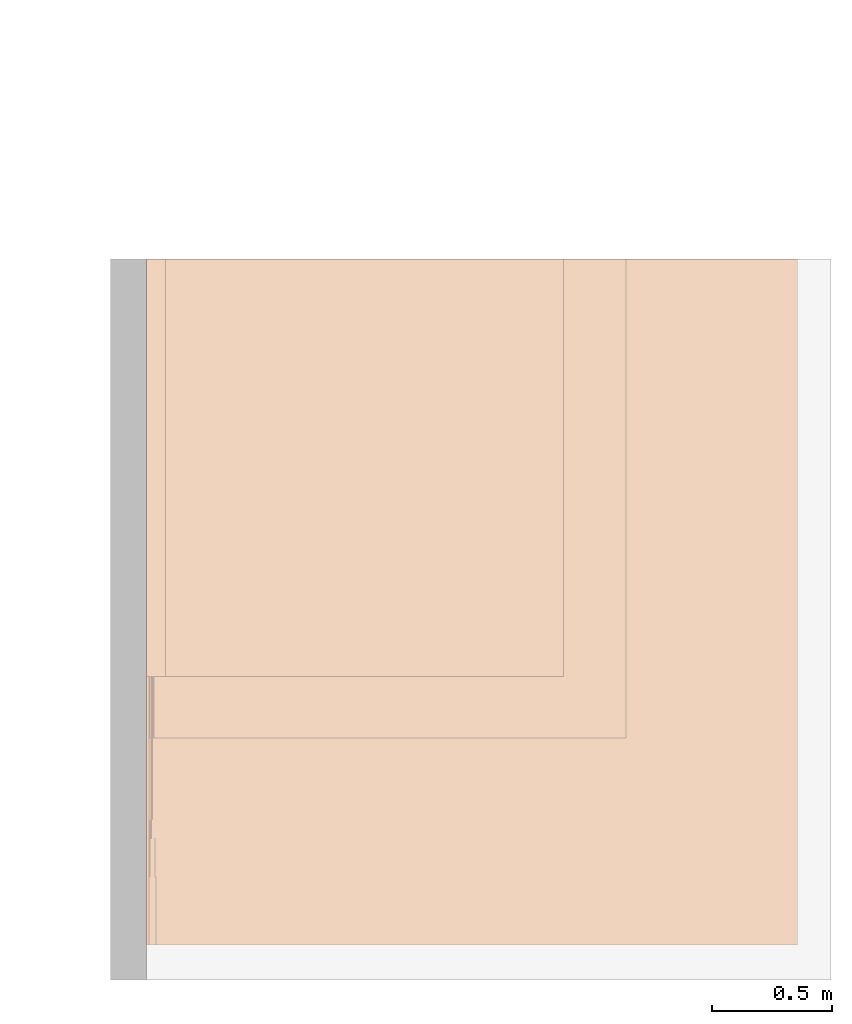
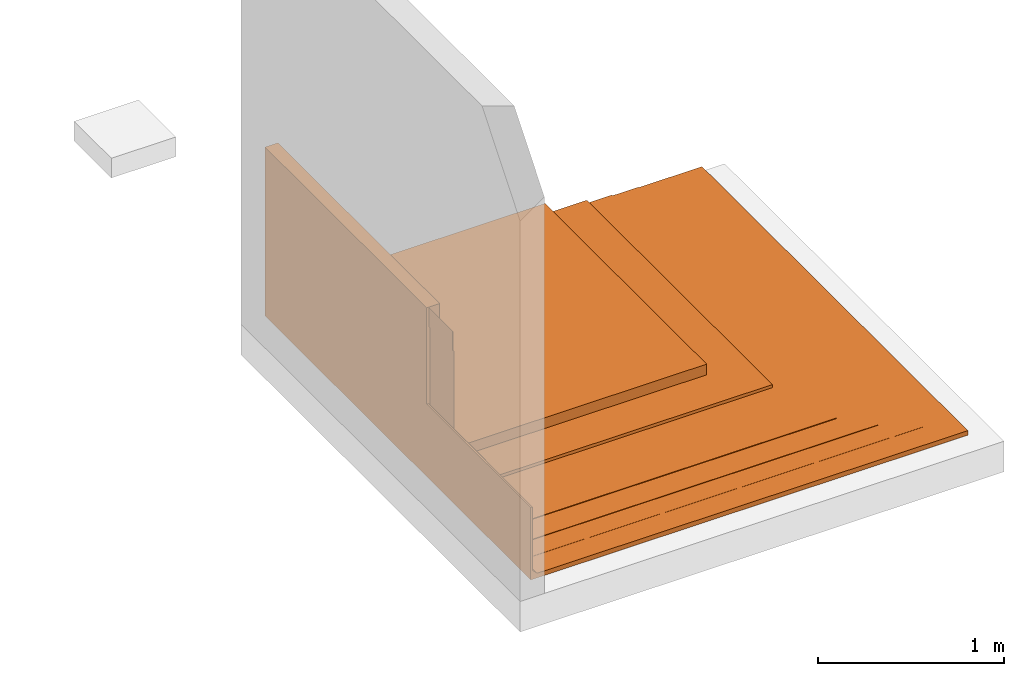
# One storey, part 2 of 2: 1 proxy.
"""IFC2X3 building model written with IfcOpenShell, lengths in metres."""

import ifcopenshell
import ifcopenshell.guid

model = None  # the IFC model being written
_history = None  # IfcOwnerHistory: only IFC2X3 demands one
_inside = {}  # id of a spatial element -> (the spatial element, [elements in it])
_under = {}  # id of a project, library or spatial element -> (it, [spatial elements below it])
_declared = {}  # id of a project -> (the project, [libraries it declares])
_typed = {}  # id of a type object -> (the type object, [elements of that type])
_made_of = {}  # id of a material, layer set ... -> (it, [elements and type objects made of it])


def new_model(schema):
    """Start an empty IFC model of exactly this schema.

    Asked for "IFC4X3", IfcOpenShell would pick the latest addendum, in which some entities
    have other attributes; the version numbers below select the first issue.
    IFC2X3 requires an IfcOwnerHistory on every rooted entity: one is made here for all.
    """
    global model, _history
    if schema == "IFC4X3":
        model = ifcopenshell.file(schema_version=(4, 3, 0, 0))
    else:
        model = ifcopenshell.file(schema=schema)
    _inside.clear()
    _under.clear()
    _declared.clear()
    _typed.clear()
    _made_of.clear()
    _history = None
    if model.schema == "IFC2X3":
        org = make("IfcOrganization", Name="unknown")
        user = make(
            "IfcPersonAndOrganization",
            ThePerson=make("IfcPerson", FamilyName="unknown"),
            TheOrganization=org,
        )
        app = make(
            "IfcApplication",
            ApplicationDeveloper=org,
            Version="unknown",
            ApplicationFullName="unknown",
            ApplicationIdentifier="unknown",
        )
        _history = make(
            "IfcOwnerHistory",
            OwningUser=user,
            OwningApplication=app,
            ChangeAction="ADDED",
            CreationDate=0,
        )
    return model


def make(cls, **values):
    """One entity of the class cls with the attributes given. An attribute that is None is left unset."""
    return model.create_entity(
        cls, **{name: value for name, value in values.items() if value is not None}
    )


def entity(cls, *values):
    """Any entity or typed value of the class cls, its attributes in the order of the schema. None: left unset."""
    e = model.create_entity(cls)
    for i, value in enumerate(values):
        if value is not None:
            e[i] = value
    return e


def rooted(cls, **values):
    """An entity with a GlobalId (a new one), such as an element, a storey or a relation."""
    return make(cls, GlobalId=ifcopenshell.guid.new(), OwnerHistory=_history, **values)


def si_unit(unit_type, name, prefix=None):
    """IfcSIUnit, for example si_unit("LENGTHUNIT", "METRE", prefix="MILLI")."""
    return make("IfcSIUnit", UnitType=unit_type, Prefix=prefix, Name=name)


def converted_unit(unit_type, name, factor, base, dimensions=None, offset=None):
    """IfcConversionBasedUnit, such as the inch: factor (a typed value) times the base unit."""
    return make(
        "IfcConversionBasedUnit"
        if offset is None
        else "IfcConversionBasedUnitWithOffset",
        ConversionOffset=offset,
        Dimensions=None
        if dimensions is None
        else entity("IfcDimensionalExponents", *dimensions),
        UnitType=unit_type,
        Name=name,
        ConversionFactor=make(
            "IfcMeasureWithUnit", ValueComponent=factor, UnitComponent=base
        ),
    )


def derived_unit(unit_type, elements):
    """IfcDerivedUnit: a product of units, each with its exponent."""
    return make(
        "IfcDerivedUnit",
        Elements=[
            make("IfcDerivedUnitElement", Unit=unit, Exponent=power)
            for unit, power in elements
        ],
        UnitType=unit_type,
    )


def assignment(units):
    """IfcUnitAssignment: the units of a project."""
    return None if units is None else make("IfcUnitAssignment", Units=units)


def point(xyz):
    """IfcCartesianPoint."""
    return None if xyz is None else make("IfcCartesianPoint", Coordinates=xyz)


def direction(xyz):
    """IfcDirection."""
    return None if xyz is None else make("IfcDirection", DirectionRatios=xyz)


def frame(location, z_axis=None, x_axis=None):
    """IfcAxis2Placement3D, a coordinate frame: its origin and axes. An axis left out is left unset."""
    return make(
        "IfcAxis2Placement3D",
        Location=point(location),
        Axis=direction(z_axis),
        RefDirection=direction(x_axis),
    )


def frame_2d(location, x_axis=None):
    """IfcAxis2Placement2D, a coordinate frame in the plane: its origin and x axis."""
    return make(
        "IfcAxis2Placement2D", Location=point(location), RefDirection=direction(x_axis)
    )


def origin():
    """The frame at (0, 0, 0) with its axes left unset."""
    return frame((0.0, 0.0, 0.0))


def origin_2d_with_axis():
    """The frame at (0, 0) in the plane with the x axis (1, 0) written out."""
    return frame_2d((0.0, 0.0), x_axis=(1.0, 0.0))


def place(relative_to, where):
    """IfcLocalPlacement: puts the frame where relative to a parent placement (None: the world)."""
    return make(
        "IfcLocalPlacement", PlacementRelTo=relative_to, RelativePlacement=where
    )


def context(
    kind, dimensions, precision=None, world=None, true_north=None, identifier=None
):
    """IfcGeometricRepresentationContext, for example the 3D "Model" context."""
    return make(
        "IfcGeometricRepresentationContext",
        ContextIdentifier=identifier,
        ContextType=kind,
        CoordinateSpaceDimension=dimensions,
        Precision=precision,
        WorldCoordinateSystem=world,
        TrueNorth=true_north,
    )


def subcontext(parent, identifier, kind, view, scale=None):
    """IfcGeometricRepresentationSubContext, for example "Body" below "Model"."""
    return make(
        "IfcGeometricRepresentationSubContext",
        ContextIdentifier=identifier,
        ContextType=kind,
        ParentContext=parent,
        TargetScale=scale,
        TargetView=view,
    )


def project(units=None, contexts=None):
    """IfcProject with its units and contexts."""
    return rooted(
        "IfcProject",
        Name="project",
        RepresentationContexts=contexts,
        UnitsInContext=assignment(units),
    )


def spatial(cls, under=None, at=None, **own):
    """A site, building, storey or space (cls), placed at a placement, below another one or the project."""
    s = rooted(cls, ObjectPlacement=at, **own)
    if under is not None:
        _under.setdefault(under.id(), (under, []))[1].append(s)
    return s


def polyline(points):
    """IfcPolyline through the points."""
    return make("IfcPolyline", Points=[point(p) for p in points])


def circle_curve(where, radius):
    """IfcCircle in the frame where."""
    return make("IfcCircle", Position=where, Radius=radius)


def parameter(value):
    """IfcParameterValue: where a trimmed curve begins or ends, as a parameter of its basis curve."""
    return model.create_entity("IfcParameterValue", value)


def trimmed(basis, trim1, trim2, sense, master):
    """IfcTrimmedCurve: the piece of a basis curve between two trims."""
    return make(
        "IfcTrimmedCurve",
        BasisCurve=basis,
        Trim1=trim1,
        Trim2=trim2,
        SenseAgreement=sense,
        MasterRepresentation=master,
    )


def segment(curve, same_sense, transition):
    """IfcCompositeCurveSegment."""
    return make(
        "IfcCompositeCurveSegment",
        Transition=transition,
        SameSense=same_sense,
        ParentCurve=curve,
    )


def composite_curve(segments, self_intersect=None):
    """IfcCompositeCurve: segments joined end to end."""
    return make("IfcCompositeCurve", Segments=segments, SelfIntersect=self_intersect)


def profile(cls, at=None, kind="AREA", **sizes):
    """A parametric profile (cls). Its sizes go by their IFC names, for example OverallWidth=200.0."""
    return make(cls, ProfileType=kind, Position=at, **sizes)


def rectangle(**sizes):
    """IfcRectangleProfileDef."""
    return profile("IfcRectangleProfileDef", **sizes)


def outline(outer, holes=None, kind="AREA"):
    """IfcArbitraryClosedProfileDef: a profile drawn as a closed curve; with holes, ...WithVoids."""
    if holes is None:
        return make("IfcArbitraryClosedProfileDef", ProfileType=kind, OuterCurve=outer)
    return make(
        "IfcArbitraryProfileDefWithVoids",
        ProfileType=kind,
        OuterCurve=outer,
        InnerCurves=holes,
    )


def extrude(swept, where, along, depth):
    """IfcExtrudedAreaSolid: the profile swept, set in the frame where, extruded along a direction by depth."""
    return make(
        "IfcExtrudedAreaSolid",
        SweptArea=swept,
        Position=where,
        ExtrudedDirection=direction(along),
        Depth=depth,
    )


def shape(context_of_items, identifier, shape_type, items):
    """IfcShapeRepresentation: the items that make up one representation, for example the "Body"."""
    return make(
        "IfcShapeRepresentation",
        ContextOfItems=context_of_items,
        RepresentationIdentifier=identifier,
        RepresentationType=shape_type,
        Items=items,
    )


def source(mapping_origin, context_of_items, identifier, shape_type, items):
    """IfcRepresentationMap: a shape defined once, which mapped items show again and again."""
    return make(
        "IfcRepresentationMap",
        MappingOrigin=mapping_origin,
        MappedRepresentation=shape(context_of_items, identifier, shape_type, items),
    )


def transform(
    local_origin,
    x_axis=None,
    y_axis=None,
    z_axis=None,
    scale=None,
    scale2=None,
    scale3=None,
    uniform=True,
):
    """IfcCartesianTransformationOperator3D, or its non-uniform kind. x_axis, y_axis, z_axis: its Axis1, 2, 3."""
    if uniform:
        return make(
            "IfcCartesianTransformationOperator3D",
            Axis1=direction(x_axis),
            Axis2=direction(y_axis),
            LocalOrigin=point(local_origin),
            Scale=scale,
            Axis3=direction(z_axis),
        )
    return make(
        "IfcCartesianTransformationOperator3DnonUniform",
        Axis1=direction(x_axis),
        Axis2=direction(y_axis),
        LocalOrigin=point(local_origin),
        Scale=scale,
        Axis3=direction(z_axis),
        Scale2=scale2,
        Scale3=scale3,
    )


def mapped(mapping_source, mapping_target):
    """IfcMappedItem: shows the shape of a source again, moved by a transform."""
    return make(
        "IfcMappedItem", MappingSource=mapping_source, MappingTarget=mapping_target
    )


def material(Name=None, Category=None):
    """IfcMaterial."""
    return make("IfcMaterial", Name=Name, Category=Category)


def material_list(materials):
    """IfcMaterialList."""
    return make("IfcMaterialList", Materials=materials)


def made_of(thing, what):
    """Note that an element or type object is made of a material, layer set ...; save() writes the relation."""
    if what is not None:
        _made_of.setdefault(what.id(), (what, []))[1].append(thing)
    return thing


def type_object(cls, material=None, **own):
    """A type object (cls), such as IfcWallType, which elements share."""
    return made_of(rooted(cls, **own), material)


def type_shapes(of_type, sources):
    """Give a type object the sources (RepresentationMaps) that its elements show as mapped items."""
    of_type.RepresentationMaps = sources


def element(
    cls,
    number,
    at=None,
    inside=None,
    cuts=None,
    type_object=None,
    material=None,
    context=None,
    identifier="Body",
    shape_type=None,
    held_by="IfcProductDefinitionShape",
    body=None,
    shapes=None,
    **own,
):
    """One element of the class cls, such as IfcWall. Its Tag is "e" and its number.

    at: its placement. inside: the storey or other place that contains it. cuts: it is an
    opening in that element (IfcRelVoidsElement). A single representation is given by context,
    identifier, shape_type and body (its items); several are given by shapes. held_by: the class
    of the entity that holds the representations. save() writes the other relations.
    """
    e = rooted(cls, Tag="e%d" % number, ObjectPlacement=at, **own)
    if body is not None:
        shapes = [shape(context, identifier, shape_type, body)]
    if shapes is not None:
        e.Representation = make(held_by, Representations=shapes)
    if inside is not None:
        _inside.setdefault(inside.id(), (inside, []))[1].append(e)
    if cuts is not None:
        rooted(
            "IfcRelVoidsElement", RelatingBuildingElement=cuts, RelatedOpeningElement=e
        )
    if type_object is not None:
        _typed.setdefault(type_object.id(), (type_object, []))[1].append(e)
    return made_of(e, material)


def aggregate(whole, parts):
    """IfcRelAggregates: a whole, such as a stair, and the parts it consists of."""
    return rooted("IfcRelAggregates", RelatingObject=whole, RelatedObjects=parts)


def save(model, path):
    """Write the relations noted so far, then the file.

    IfcRelAggregates (storeys below a building ...), IfcRelContainedInSpatialStructure (elements
    in a storey), IfcRelDefinesByType, IfcRelAssociatesMaterial and IfcRelDeclares: one each for
    every whole, place, type object, material and project.
    """
    for whole, parts in _under.values():
        aggregate(whole, parts)
    for where, things in _inside.values():
        rooted(
            "IfcRelContainedInSpatialStructure",
            RelatedElements=things,
            RelatingStructure=where,
        )
    for kind, things in _typed.values():
        rooted("IfcRelDefinesByType", RelatedObjects=things, RelatingType=kind)
    for what, things in _made_of.values():
        rooted("IfcRelAssociatesMaterial", RelatedObjects=things, RelatingMaterial=what)
    for by, libraries in _declared.values():
        rooted("IfcRelDeclares", RelatingContext=by, RelatedDefinitions=libraries)
    model.write(path)


model = new_model("IFC2X3")

# Units and contexts
model_context = context("Model", 3, precision=1e-05, world=origin(), true_north=direction((6.123031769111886e-17, 1.0)))
body_context = subcontext(model_context, "Body", "Model", "MODEL_VIEW")
ifc_project = project(units=[si_unit("LENGTHUNIT", "METRE"), si_unit("AREAUNIT", "SQUARE_METRE"), si_unit("VOLUMEUNIT", "CUBIC_METRE"), converted_unit("PLANEANGLEUNIT", "DEGREE", entity("IfcRatioMeasure", 0.017453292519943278), si_unit("PLANEANGLEUNIT", "RADIAN"), dimensions=[0, 0, 0, 0, 0, 0, 0]), si_unit("MASSUNIT", "GRAM", prefix="KILO"), derived_unit("MASSDENSITYUNIT", [(si_unit("MASSUNIT", "GRAM", prefix="KILO"), 1), (si_unit("LENGTHUNIT", "METRE"), -3)]), derived_unit("IONCONCENTRATIONUNIT", [(si_unit("MASSUNIT", "GRAM", prefix="KILO"), 1), (si_unit("LENGTHUNIT", "METRE"), -3)]), derived_unit("MOMENTOFINERTIAUNIT", [(si_unit("LENGTHUNIT", "METRE"), 4)]), si_unit("TIMEUNIT", "SECOND"), si_unit("FREQUENCYUNIT", "HERTZ"), si_unit("THERMODYNAMICTEMPERATUREUNIT", "DEGREE_CELSIUS"), derived_unit("THERMALTRANSMITTANCEUNIT", [(si_unit("MASSUNIT", "GRAM", prefix="KILO"), 1), (si_unit("THERMODYNAMICTEMPERATUREUNIT", "KELVIN"), -1), (si_unit("TIMEUNIT", "SECOND"), -3)]), derived_unit("THERMALCONDUCTANCEUNIT", [(si_unit("MASSUNIT", "GRAM", prefix="KILO"), 1), (si_unit("THERMODYNAMICTEMPERATUREUNIT", "KELVIN"), -1), (si_unit("TIMEUNIT", "SECOND"), -3), (si_unit("LENGTHUNIT", "METRE"), 1)]), derived_unit("VOLUMETRICFLOWRATEUNIT", [(si_unit("LENGTHUNIT", "METRE"), 3), (si_unit("TIMEUNIT", "SECOND"), -1)]), derived_unit("MASSFLOWRATEUNIT", [(si_unit("MASSUNIT", "GRAM", prefix="KILO"), 1), (si_unit("TIMEUNIT", "SECOND"), -1)]), derived_unit("ROTATIONALFREQUENCYUNIT", [(si_unit("TIMEUNIT", "SECOND"), -1)]), si_unit("ELECTRICCURRENTUNIT", "AMPERE"), si_unit("ELECTRICVOLTAGEUNIT", "VOLT"), si_unit("POWERUNIT", "WATT"), si_unit("FORCEUNIT", "NEWTON", prefix="KILO"), si_unit("ILLUMINANCEUNIT", "LUX"), si_unit("LUMINOUSFLUXUNIT", "LUMEN"), si_unit("LUMINOUSINTENSITYUNIT", "CANDELA"), derived_unit("USERDEFINED", [(si_unit("MASSUNIT", "GRAM", prefix="KILO"), -1), (si_unit("LENGTHUNIT", "METRE"), -2), (si_unit("TIMEUNIT", "SECOND"), 3), (si_unit("LUMINOUSFLUXUNIT", "LUMEN"), 1)]), derived_unit("USERDEFINED", [(si_unit("MASSUNIT", "GRAM", prefix="KILO"), 1), (si_unit("TIMEUNIT", "SECOND"), -3), (si_unit("LENGTHUNIT", "METRE"), 3), (si_unit("ELECTRICCURRENTUNIT", "AMPERE"), -2)]), derived_unit("SOUNDPOWERUNIT", [(si_unit("MASSUNIT", "GRAM", prefix="KILO"), 1), (si_unit("TIMEUNIT", "SECOND"), -3), (si_unit("LENGTHUNIT", "METRE"), 2)]), derived_unit("SOUNDPRESSUREUNIT", [(si_unit("MASSUNIT", "GRAM", prefix="KILO"), 1), (si_unit("LENGTHUNIT", "METRE"), -1), (si_unit("TIMEUNIT", "SECOND"), -2)]), derived_unit("LINEARVELOCITYUNIT", [(si_unit("LENGTHUNIT", "METRE"), 1), (si_unit("TIMEUNIT", "SECOND"), -1)]), si_unit("PRESSUREUNIT", "PASCAL"), derived_unit("USERDEFINED", [(si_unit("MASSUNIT", "GRAM", prefix="KILO"), 1), (si_unit("LENGTHUNIT", "METRE"), -2), (si_unit("TIMEUNIT", "SECOND"), -2)]), derived_unit("LINEARFORCEUNIT", [(si_unit("MASSUNIT", "GRAM", prefix="KILO"), 1), (si_unit("TIMEUNIT", "SECOND"), -2)]), derived_unit("PLANARFORCEUNIT", [(si_unit("MASSUNIT", "GRAM", prefix="KILO"), 1), (si_unit("LENGTHUNIT", "METRE"), -1), (si_unit("TIMEUNIT", "SECOND"), -2)]), derived_unit("SPECIFICHEATCAPACITYUNIT", [(si_unit("THERMODYNAMICTEMPERATUREUNIT", "KELVIN"), -1), (si_unit("LENGTHUNIT", "METRE"), 2), (si_unit("TIMEUNIT", "SECOND"), -2)]), derived_unit("HEATINGVALUEUNIT", [(si_unit("LENGTHUNIT", "METRE"), 2), (si_unit("TIMEUNIT", "SECOND"), -2)]), derived_unit("VAPORPERMEABILITYUNIT", [(si_unit("LENGTHUNIT", "METRE"), -1), (si_unit("TIMEUNIT", "SECOND"), 1)]), derived_unit("DYNAMICVISCOSITYUNIT", [(si_unit("MASSUNIT", "GRAM", prefix="KILO"), 1), (si_unit("TIMEUNIT", "SECOND"), -1), (si_unit("LENGTHUNIT", "METRE"), -1)]), derived_unit("THERMALEXPANSIONCOEFFICIENTUNIT", [(si_unit("THERMODYNAMICTEMPERATUREUNIT", "KELVIN"), -1)]), derived_unit("MODULUSOFELASTICITYUNIT", [(si_unit("MASSUNIT", "GRAM", prefix="KILO"), 1), (si_unit("LENGTHUNIT", "METRE"), -1), (si_unit("TIMEUNIT", "SECOND"), -2)]), derived_unit("ISOTHERMALMOISTURECAPACITYUNIT", [(si_unit("LENGTHUNIT", "METRE"), 3), (si_unit("MASSUNIT", "GRAM", prefix="KILO"), -1)]), derived_unit("MOISTUREDIFFUSIVITYUNIT", [(si_unit("TIMEUNIT", "SECOND"), -1), (si_unit("LENGTHUNIT", "METRE"), 2)])], contexts=[model_context])

# Site, building, storey
site_placement = place(None, origin())
site = spatial("IfcSite", under=ifc_project, at=site_placement, Name="Default", CompositionType="ELEMENT")
building_placement = place(site_placement, origin())
building = spatial("IfcBuilding", under=site, at=building_placement, CompositionType="ELEMENT")
storey_placement = place(building_placement, frame((0.0, 0.0, -0.0025237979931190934)))
storey = spatial("IfcBuildingStorey", under=building, at=storey_placement, Name="ARQ Térreo", CompositionType="ELEMENT", Elevation=-0.0025237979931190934)

# Proxy
ifc_material_1 = material(Name="#argamassa")
ifc_material_2 = material(Name="#selante")
ifc_material_3 = material(Name="#proteção mecânica")
ifc_material_4 = material(Name="#camada amortecedora")
ifc_material_5 = material(Name="#Viapoxi Adesivo")
ifc_material_6 = material(Name="#Tela Plástica")
ifc_material_7 = material(Name="# Torodin 4mm - TIPO III - Classe A")
ifc_material_8 = material(Name="#Primer Adeflex")
ifc_material_list = material_list([ifc_material_1, ifc_material_2, ifc_material_3, ifc_material_4, ifc_material_5, ifc_material_6, ifc_material_7, ifc_material_8])
building_element_proxy_type = type_object("IfcBuildingElementProxyType", Name="IMPER:IMPER", PredefinedType="NOTDEFINED", material=ifc_material_list)
shared_shape = source(origin(), body_context, "Body", "SweptSolid", [
    extrude(rectangle(XDim=2.854111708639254, YDim=0.010000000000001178, at=frame_2d((0.0, -3.382710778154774e-17), x_axis=(1.0, 0.0))), frame((-0.3469704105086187, -1.2811858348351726, -0.0025237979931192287), z_axis=(0.0, 0.0, 1.0), x_axis=(0.0, -1.0, 0.0)), (0.0, 0.0, 1.0), 0.4752746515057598),
    extrude(rectangle(XDim=1.7372680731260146, YDim=0.020000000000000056, at=origin_2d_with_axis()), frame((-0.2619704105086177, -0.7227640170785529, 0.10730187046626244), z_axis=(0.0, 0.0, 1.0), x_axis=(0.0, -1.0, 0.0)), (0.0, 0.0, 1.0), 0.019999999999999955),
    extrude(outline(composite_curve([segment(polyline([(0.21586995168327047, -1.5093352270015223), (0.28586995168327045, -1.5093352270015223)]), True, "CONTINUOUS"), segment(polyline([(0.28586995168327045, -1.5093352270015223), (0.2858699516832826, 0.2018647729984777)]), True, "CONTINUOUS"), segment(polyline([(0.2858699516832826, 0.2018647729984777), (0.18082209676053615, 0.2018647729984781)]), True, "CONTINUOUS"), segment(trimmed(circle_curve(frame_2d((0.18082209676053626, 0.21161777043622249), x_axis=(0.0, -1.0)), 0.009752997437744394), [parameter(300.520300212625)], [parameter(0.0)], True, "PARAMETER"), False, "CONTINUOUS"), segment(polyline([(0.1724203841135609, 0.20666477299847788), (0.04569562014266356, 0.20666477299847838)]), True, "CONTINUOUS"), segment(trimmed(circle_curve(frame_2d((0.04569562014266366, 0.21641777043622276), x_axis=(0.0, -1.0)), 0.009752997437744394), [parameter(300.5203002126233)], [parameter(0.0)], True, "PARAMETER"), False, "CONTINUOUS"), segment(polyline([(0.03729390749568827, 0.21146477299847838), (-0.1123558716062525, 0.21146477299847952)]), True, "CONTINUOUS"), segment(polyline([(-0.1123558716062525, 0.21146477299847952), (-0.11235587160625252, 0.2084365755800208)]), True, "CONTINUOUS"), segment(polyline([(-0.11235587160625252, 0.2084365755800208), (-0.12153952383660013, 0.20843657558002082)]), True, "CONTINUOUS"), segment(polyline([(-0.12153952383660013, 0.20843657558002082), (-0.12957903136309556, 0.21647608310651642)]), True, "CONTINUOUS"), segment(polyline([(-0.12957903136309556, 0.21647608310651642), (-0.1295790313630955, 0.22647608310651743)]), True, "CONTINUOUS"), segment(polyline([(-0.1295790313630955, 0.22647608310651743), (-0.760956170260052, 0.22647608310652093)]), True, "CONTINUOUS"), segment(polyline([(-0.760956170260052, 0.22647608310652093), (-0.7609561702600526, 0.1464760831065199)]), True, "CONTINUOUS"), segment(polyline([(-0.7609561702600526, 0.1464760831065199), (0.2158699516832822, 0.14647608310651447)]), True, "CONTINUOUS"), segment(polyline([(0.2158699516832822, 0.14647608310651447), (0.23586995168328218, 0.1464760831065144)]), True, "CONTINUOUS"), segment(polyline([(0.23586995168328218, 0.1464760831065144), (0.23586995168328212, 0.12647608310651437)]), True, "CONTINUOUS"), segment(polyline([(0.23586995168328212, 0.12647608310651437), (0.21586995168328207, 0.12647608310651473)]), True, "CONTINUOUS"), segment(polyline([(0.21586995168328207, 0.12647608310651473), (0.21586995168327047, -1.5093352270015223)]), True, "CONTINUOUS")], self_intersect=False)), frame((-0.12549432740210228, -1.5913980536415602, 0.34317182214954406), z_axis=(0.0, 1.0, 0.0), x_axis=(0.0, 0.0, -1.0)), (0.0, 0.0, 1.0), 1.7372680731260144),
    extrude(outline(composite_curve([segment(polyline([(-0.011733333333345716, -1.2609592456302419), (0.00826666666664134, -1.2609592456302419)]), True, "CONTINUOUS"), segment(polyline([(0.00826666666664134, -1.2609592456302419), (0.008266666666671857, 0.5588520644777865)]), True, "CONTINUOUS"), segment(polyline([(0.008266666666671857, 0.5588520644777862), (0.003466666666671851, 0.5588520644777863)]), True, "CONTINUOUS"), segment(polyline([(0.003466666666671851, 0.5588520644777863), (0.0034666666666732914, 0.6939632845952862)]), True, "CONTINUOUS"), segment(trimmed(circle_curve(frame_2d((-0.011907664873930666, 0.6948520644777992), x_axis=(0.0, -1.0)), 0.015399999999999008), [parameter(86.69145144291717)], [parameter(179.3513847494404)], True, "PARAMETER"), True, "CONTINUOUS"), segment(polyline([(-0.011733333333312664, 0.7102510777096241), (-0.011733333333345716, -1.2609592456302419)]), True, "CONTINUOUS")], self_intersect=False)), frame((0.38288165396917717, -1.8470207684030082, 0.04556853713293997), z_axis=(0.0, 1.0, 0.0), x_axis=(0.0, 0.0, -1.0)), (0.0, 0.0, 1.0), 1.9928907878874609),
    extrude(outline(polyline([(-0.0008824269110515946, 5.2421376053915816e-05), (0.006204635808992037, 5.24213760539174e-05), (0.009908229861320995, 0.003756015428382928), (-0.0014613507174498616, 0.0037560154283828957), (-0.007955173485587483, -0.002737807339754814), (-0.005813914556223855, -0.004879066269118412), (-0.0008824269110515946, 5.2421376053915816e-05)])), frame((-0.33762013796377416, -2.191126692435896, 0.4630887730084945), z_axis=(0.0, 1.0, 0.0), x_axis=(-0.7071067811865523, 0.0, 0.7071067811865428)), (0.0, 0.0, 1.0), 2.3369967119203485),
    extrude(outline(composite_curve([segment(polyline([(0.00721894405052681, -0.3428229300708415), (0.00721894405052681, -0.44828655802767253)]), True, "CONTINUOUS"), segment(polyline([(0.00721894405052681, -0.44828655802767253), (0.008018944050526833, -0.44828655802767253)]), True, "CONTINUOUS"), segment(polyline([(0.008018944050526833, -0.44828655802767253), (0.008018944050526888, -0.3428229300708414)]), True, "CONTINUOUS"), segment(trimmed(circle_curve(frame_2d((-0.007534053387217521, -0.3428229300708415), x_axis=(1.0, 0.0)), 0.015552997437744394), [parameter(3.5622212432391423e-13)], [parameter(46.2607256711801)], True, "PARAMETER"), True, "CONTINUOUS"), segment(polyline([(0.003218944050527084, -0.33158599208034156), (0.0032189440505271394, -0.20769645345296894)]), True, "CONTINUOUS"), segment(trimmed(circle_curve(frame_2d((-0.01233405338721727, -0.2076964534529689), x_axis=(1.0, 0.0)), 0.015552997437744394), [parameter(359.9999999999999)], [parameter(46.26072567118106)], True, "PARAMETER"), True, "CONTINUOUS"), segment(polyline([(-0.001581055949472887, -0.19645951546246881), (-0.0015810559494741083, 0.4635404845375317)]), True, "CONTINUOUS"), segment(trimmed(circle_curve(frame_2d((-0.01951188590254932, 0.45265933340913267), x_axis=(1.0, 0.0)), 0.02097412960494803), [parameter(31.251065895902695)], [parameter(56.89660713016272)], True, "PARAMETER"), True, "CONTINUOUS"), segment(polyline([(-0.008056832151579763, 0.4702290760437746), (-0.00805683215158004, 0.5937614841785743)]), True, "CONTINUOUS"), segment(polyline([(-0.00805683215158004, 0.5937614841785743), (-0.008856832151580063, 0.5937614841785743)]), True, "CONTINUOUS"), segment(polyline([(-0.008856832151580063, 0.5937614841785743), (-0.008856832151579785, 0.46979016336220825)]), True, "CONTINUOUS"), segment(trimmed(circle_curve(frame_2d((-0.01951188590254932, 0.45265933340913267), x_axis=(1.0, 0.0)), 0.02017412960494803), [parameter(31.880834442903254)], [parameter(58.11916555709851)], True, "PARAMETER"), False, "CONTINUOUS"), segment(polyline([(-0.0023810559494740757, 0.46331438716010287), (-0.0023810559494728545, -0.19680660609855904)]), True, "CONTINUOUS"), segment(trimmed(circle_curve(frame_2d((-0.01233405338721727, -0.2076964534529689), x_axis=(1.0, 0.0)), 0.014752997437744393), [parameter(359.9999999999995)], [parameter(47.573614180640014)], True, "PARAMETER"), False, "CONTINUOUS"), segment(polyline([(0.0024189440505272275, -0.207696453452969), (0.002418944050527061, -0.33193308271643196)]), True, "CONTINUOUS"), segment(trimmed(circle_curve(frame_2d((-0.007534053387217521, -0.3428229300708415), x_axis=(1.0, 0.0)), 0.014752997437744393), [parameter(0.0)], [parameter(47.5736141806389)], True, "PARAMETER"), False, "CONTINUOUS")], self_intersect=False)), frame((-0.32957804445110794, -1.8470207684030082, 0.5051726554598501), z_axis=(0.0, -1.0, 0.0), x_axis=(1.0, 0.0, 0.0)), (0.0, 0.0, -1.0), 1.9928907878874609),
    extrude(outline(composite_curve([segment(trimmed(circle_curve(frame_2d((0.0022674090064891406, 0.139487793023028), x_axis=(1.0, 0.0)), 0.01939999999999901), [parameter(87.05229129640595)], [parameter(178.0434486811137)], True, "PARAMETER"), True, "CONTINUOUS"), segment(polyline([(-0.017121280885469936, 0.14015014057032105), (-0.01712128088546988, 0.03461426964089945)]), True, "CONTINUOUS"), segment(trimmed(circle_curve(frame_2d((-0.022874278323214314, 0.03461426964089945), x_axis=(1.0, 0.0)), 0.005752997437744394), [parameter(305.2941953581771)], [parameter(0.0)], True, "PARAMETER"), False, "CONTINUOUS"), segment(trimmed(circle_curve(frame_2d((-0.017750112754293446, 0.026156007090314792), x_axis=(1.0, 0.0)), 0.004171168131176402), [parameter(115.56840704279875)], [parameter(180.00000000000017)], True, "PARAMETER"), True, "CONTINUOUS"), segment(polyline([(-0.02192128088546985, 0.026156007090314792), (-0.021921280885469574, -0.10051220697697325)]), True, "CONTINUOUS"), segment(trimmed(circle_curve(frame_2d((-0.027674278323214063, -0.10051220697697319), x_axis=(1.0, 0.0)), 0.005752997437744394), [parameter(305.29419535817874)], [parameter(3.5622212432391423e-13)], True, "PARAMETER"), False, "CONTINUOUS"), segment(trimmed(circle_curve(frame_2d((-0.022550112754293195, -0.10897046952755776), x_axis=(1.0, 0.0)), 0.004171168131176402), [parameter(115.56840704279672)], [parameter(180.00000000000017)], True, "PARAMETER"), True, "CONTINUOUS"), segment(polyline([(-0.026721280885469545, -0.10897046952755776), (-0.026721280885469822, -0.2695378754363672)]), True, "CONTINUOUS"), segment(polyline([(-0.026721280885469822, -0.2695378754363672), (-0.022721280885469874, -0.2655378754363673)]), True, "CONTINUOUS"), segment(polyline([(-0.022721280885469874, -0.2655378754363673), (-0.022721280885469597, -0.1089139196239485)]), True, "CONTINUOUS"), segment(trimmed(circle_curve(frame_2d((-0.027674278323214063, -0.10051220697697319), x_axis=(1.0, 0.0)), 0.009752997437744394), [parameter(300.52030021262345)], [parameter(359.9999999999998)], True, "PARAMETER"), True, "CONTINUOUS"), segment(polyline([(-0.01792128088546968, -0.10051220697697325), (-0.017921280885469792, 0.026212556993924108)]), True, "CONTINUOUS"), segment(trimmed(circle_curve(frame_2d((-0.022874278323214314, 0.03461426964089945), x_axis=(1.0, 0.0)), 0.009752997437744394), [parameter(300.5203002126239)], [parameter(359.9999999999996)], True, "PARAMETER"), True, "CONTINUOUS"), segment(polyline([(-0.013121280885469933, 0.034614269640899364), (-0.013121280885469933, 0.14007789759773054)]), True, "CONTINUOUS"), segment(trimmed(circle_curve(frame_2d((0.0022674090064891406, 0.139487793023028), x_axis=(1.0, 0.0)), 0.015399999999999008), [parameter(86.69145144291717)], [parameter(177.80397525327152)], True, "PARAMETER"), False, "CONTINUOUS"), segment(polyline([(0.0031561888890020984, 0.15486212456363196), (0.13826740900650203, 0.15486212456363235)]), True, "CONTINUOUS"), segment(polyline([(0.13826740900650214, 0.15486212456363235), (0.138267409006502, 0.15886212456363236)]), True, "CONTINUOUS"), segment(polyline([(0.13826740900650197, 0.15886212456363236), (0.003265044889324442, 0.15886212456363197)]), True, "CONTINUOUS")], self_intersect=False)), frame((-0.31423781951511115, -2.184726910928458, 0.19696399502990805), z_axis=(0.0, 1.0, 0.0), x_axis=(1.0, 0.0, 0.0)), (0.0, 0.0, 1.0), 2.330596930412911),
    extrude(outline(composite_curve([segment(polyline([(-1.056000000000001, -0.006000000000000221), (1.6140000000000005, -0.0060000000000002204)]), True, "CONTINUOUS"), segment(polyline([(1.6140000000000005, -0.0060000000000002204), (1.6140000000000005, 0.023999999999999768)]), True, "CONTINUOUS"), segment(polyline([(1.614, 0.023999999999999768), (-1.0860000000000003, 0.023999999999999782)]), True, "CONTINUOUS"), segment(polyline([(-1.0860000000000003, 0.02399999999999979), (-1.0860000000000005, -0.035999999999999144)]), True, "CONTINUOUS"), segment(trimmed(circle_curve(frame_2d((-1.056000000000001, -0.03599999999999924), x_axis=(1.0, 0.0)), 0.029999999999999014), [parameter(90.0000000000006)], [parameter(179.99999999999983)], True, "PARAMETER"), False, "CONTINUOUS")], self_intersect=False)), frame((0.7440295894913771, -2.7082416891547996, 0.02147620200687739), z_axis=(0.0, 1.0, 0.0), x_axis=(1.0, 0.0, 0.0)), (0.0, 0.0, 1.0), 2.8541117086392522),
    extrude(outline(composite_curve([segment(polyline([(-0.6330418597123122, -0.08822236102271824), (-0.6330418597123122, 0.32161678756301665)]), True, "CONTINUOUS"), segment(polyline([(-0.6330418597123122, 0.32161678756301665), (-0.6340531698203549, 0.32161678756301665)]), True, "CONTINUOUS"), segment(polyline([(-0.6340531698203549, 0.32161678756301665), (-0.6340531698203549, -0.08741251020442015)]), True, "CONTINUOUS"), segment(trimmed(circle_curve(frame_2d((-0.604053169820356, -0.08741251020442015), x_axis=(1.0, 0.0)), 0.029999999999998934), [parameter(179.99999999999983)], [parameter(269.9999999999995)], True, "PARAMETER"), True, "CONTINUOUS"), segment(polyline([(-0.6040531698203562, -0.11741251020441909), (1.8717581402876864, -0.11741251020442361)]), True, "CONTINUOUS"), segment(polyline([(1.8717581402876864, -0.11741251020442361), (1.8717581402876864, -0.11638684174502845)]), True, "CONTINUOUS"), segment(polyline([(1.8717581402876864, -0.11638684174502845), (-0.6052730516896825, -0.11638684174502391)]), True, "CONTINUOUS"), segment(trimmed(circle_curve(frame_2d((-0.6040531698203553, -0.08741251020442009), x_axis=(1.0, 0.0)), 0.028999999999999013), [parameter(181.60024369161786)], [parameter(267.5891478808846)], True, "PARAMETER"), False, "CONTINUOUS")], self_intersect=False)), frame((0.2920827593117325, -2.558785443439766, 0.1448887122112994), z_axis=(0.0, -1.0, 0.0), x_axis=(1.0, 0.0, 0.0)), (0.0, 0.0, -1.0), 2.7046554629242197),
    extrude(outline(composite_curve([segment(polyline([(-0.30913416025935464, 0.038691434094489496), (-0.3091341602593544, 0.16535964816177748)]), True, "CONTINUOUS"), segment(polyline([(-0.3091341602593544, 0.16535964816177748), (-0.3131341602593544, 0.16935964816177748)]), True, "CONTINUOUS"), segment(polyline([(-0.3131341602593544, 0.16935964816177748), (-0.3131341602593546, 0.038691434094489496)]), True, "CONTINUOUS"), segment(trimmed(circle_curve(frame_2d((-0.3041629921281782, 0.038691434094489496), x_axis=(1.0, 0.0)), 0.008971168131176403), [parameter(179.99999999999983)], [parameter(237.23916923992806)], True, "PARAMETER"), True, "CONTINUOUS"), segment(trimmed(circle_curve(frame_2d((-0.3092871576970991, 0.03023317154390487), x_axis=(1.0, 0.0)), 0.0009529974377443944), [parameter(0.0)], [parameter(73.56892721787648)], True, "PARAMETER"), False, "CONTINUOUS"), segment(polyline([(-0.3083341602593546, 0.03023317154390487), (-0.30833416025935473, -0.07538013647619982)]), True, "CONTINUOUS"), segment(trimmed(circle_curve(frame_2d((-0.2841454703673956, -0.07464035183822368), x_axis=(1.0, 0.0)), 0.024199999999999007), [parameter(181.75178272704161)], [parameter(267.36082466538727)], True, "PARAMETER"), True, "CONTINUOUS"), segment(polyline([(-0.285259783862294, -0.09881468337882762), (1.8268263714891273, -0.09881468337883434)]), True, "CONTINUOUS"), segment(polyline([(1.8268263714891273, -0.09881468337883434), (1.8268263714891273, -0.09481468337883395)]), True, "CONTINUOUS"), segment(polyline([(1.8268263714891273, -0.09481468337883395), (-0.28312745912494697, -0.09481468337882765)]), True, "CONTINUOUS"), segment(trimmed(circle_curve(frame_2d((-0.2841454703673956, -0.07464035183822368), x_axis=(1.0, 0.0)), 0.020199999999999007), [parameter(181.91741264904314)], [parameter(272.8887359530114)], True, "PARAMETER"), False, "CONTINUOUS"), segment(polyline([(-0.3043341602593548, -0.07531622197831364), (-0.3043341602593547, 0.030233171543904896)]), True, "CONTINUOUS"), segment(trimmed(circle_curve(frame_2d((-0.3092871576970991, 0.03023317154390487), x_axis=(1.0, 0.0)), 0.004952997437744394), [parameter(4.0711099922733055e-13)], [parameter(53.98237944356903)], True, "PARAMETER"), True, "CONTINUOUS"), segment(trimmed(circle_curve(frame_2d((-0.3041629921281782, 0.038691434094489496), x_axis=(1.0, 0.0)), 0.004971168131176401), [parameter(180.00000000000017)], [parameter(243.58355014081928)], True, "PARAMETER"), False, "CONTINUOUS")], self_intersect=False)), frame((-0.027824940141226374, -2.265201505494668, 0.1321165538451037), z_axis=(0.0, -1.0, 0.0), x_axis=(1.0, 0.0, 0.0)), (0.0, 0.0, -1.0), 2.411071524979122),
    extrude(outline(composite_curve([segment(polyline([(-0.580900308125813, -0.013713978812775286), (-0.580900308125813, 0.09307849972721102)]), True, "CONTINUOUS"), segment(polyline([(-0.580900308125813, 0.09307849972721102), (-0.583900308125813, 0.096078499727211)]), True, "CONTINUOUS"), segment(polyline([(-0.583900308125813, 0.096078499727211), (-0.5839003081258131, -0.013757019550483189)]), True, "CONTINUOUS"), segment(trimmed(circle_curve(frame_2d((-0.5549116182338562, -0.012947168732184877), x_axis=(1.0, 0.0)), 0.028999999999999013), [parameter(181.60024369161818)], [parameter(267.5891478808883)], True, "PARAMETER"), True, "CONTINUOUS"), segment(polyline([(-0.5561315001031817, -0.041921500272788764), (1.720899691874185, -0.0419215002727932)]), True, "CONTINUOUS"), segment(polyline([(1.720899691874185, -0.0419215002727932), (1.720899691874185, -0.0389215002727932)]), True, "CONTINUOUS"), segment(polyline([(1.720899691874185, -0.0389215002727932), (-0.5560666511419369, -0.03892150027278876)]), True, "CONTINUOUS"), segment(trimmed(circle_curve(frame_2d((-0.554911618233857, -0.012947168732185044), x_axis=(1.0, 0.0)), 0.025999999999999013), [parameter(181.69005204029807)], [parameter(267.45383470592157)], True, "PARAMETER"), False, "CONTINUOUS")], self_intersect=False)), frame((0.24294120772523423, -2.425100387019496, 0.07042337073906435), z_axis=(0.0, -1.0, 0.0), x_axis=(1.0, 0.0, 0.0)), (0.0, 0.0, -1.0), 2.5709704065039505),
])
type_shapes(building_element_proxy_type, [shared_shape])
proxy_placement = place(storey_placement, frame((0.0, 0.0, 0.0025237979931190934)))
element("IfcBuildingElementProxy", 1, at=proxy_placement, inside=storey, type_object=building_element_proxy_type, material=ifc_material_list, Name="IMPER:IMPER:IMPER : IMPER:IMPER", ObjectType="IMPER:IMPER:IMPER : IMPER:IMPER", context=body_context, shape_type="MappedRepresentation", body=[
    mapped(shared_shape, transform((0.0, 0.0, 0.0), scale=1.0)),
])

save(model, "model.ifc")
